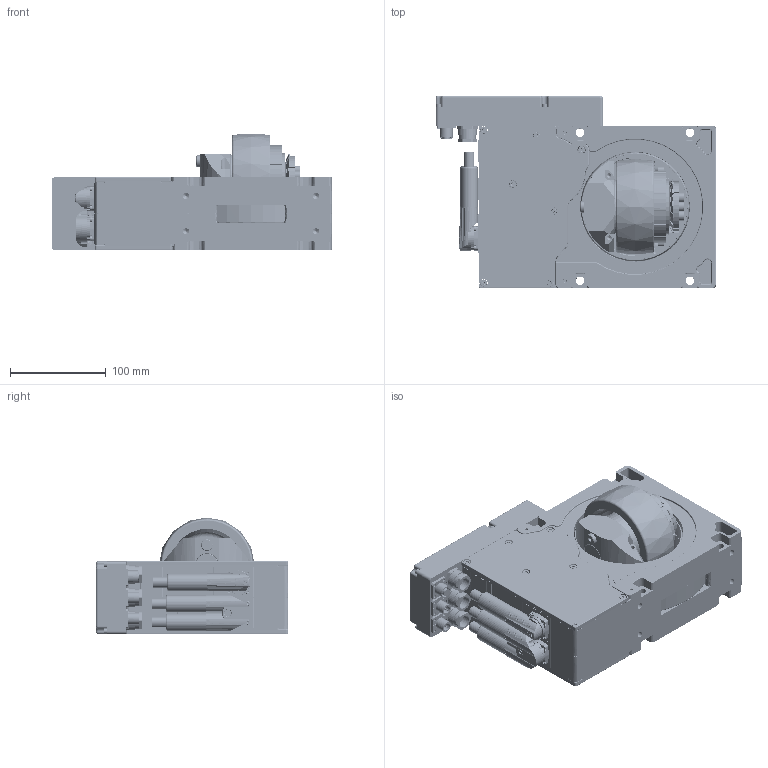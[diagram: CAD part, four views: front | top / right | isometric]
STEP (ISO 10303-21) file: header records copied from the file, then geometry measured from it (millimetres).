
FILE_DESCRIPTION(/* description */ (''),/* implementation_level */ '2;1');
FILE_NAME(/* name */ 'ArgoDriveModule R V1.0.0.stp',/* time_stamp */ '2025-04-22T11:25:01+02:00',/* author */ ('FLV'),/* organization */ (''),/* preprocessor_version */ 'ST-DEVELOPER v20',/* originating_system */ 'Autodesk Inventor 2025',/* authorisation */ '');
FILE_SCHEMA (('AUTOMOTIVE_DESIGN { 1 0 10303 214 3 1 1 }'));
Products named in the file (9): ArgoDriveModule R V1.0.0; 8315120051; Kabelbuchse Intercontec 915; ArgoBox V1.0.0 Simplified; ArgoBox Unterteil V1.0.0 Simplified; Kabelverschraubung PG11 stumpf; M12-Buchse Vorderwandmontage Flansch; M12-Stecker Vorderwandmontage 20mm-Flansch; ArgoBox Deckel V1.0.1 Simplified
Assembly tree (13 placements, depth 3):
  ArgoDriveModule R V1.0.0
    8315120051
    Kabelbuchse Intercontec 915  x3
    ArgoBox V1.0.0 Simplified
      ArgoBox Unterteil V1.0.0 Simplified
      Kabelverschraubung PG11 stumpf  x3
      M12-Buchse Vorderwandmontage Flansch
      M12-Stecker Vorderwandmontage 20mm-Flansch  x2
      ArgoBox Deckel V1.0.1 Simplified
Bounding box: 293.5 x 201 x 122.36 mm (x, y, z)
Volume: 3631703.3 mm3; surface area: 423870.7 mm2
Topology: 16 solids, 112 shells, 13902 faces, 34565 edges, 21258 vertices
Faces by surface type: plane 4886, bspline 3671, cylinder 2960, torus 1166, cone 839, sphere 380
Full cylindrical faces by diameter (mm): 0.3 x36, 1 x45, 1.2 x6, 1.5 x4, 1.6 x1, 1.8 x4, 1.9 x1, 2 x6, 2.013 x4, 2.05 x1, 2.3 x4, 2.459 x13, 2.5 x10, 2.6 x8, 2.7 x10, 2.8 x2, 3 x12, 3.05 x2, 3.06 x1, 3.1 x5, 3.2 x14, 3.242 x8, 3.4 x11, 3.5 x1, 4 x33, 4.2 x2, 4.5 x18, 4.7 x2, 4.8 x2, 5 x10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
Entity records: 637798 total; most frequent: CARTESIAN_POINT 313305, ORIENTED_EDGE 67834, DIRECTION 59945, EDGE_CURVE 33917, AXIS2_PLACEMENT_3D 22293, VERTEX_POINT 21024, LINE 15359, VECTOR 15359
